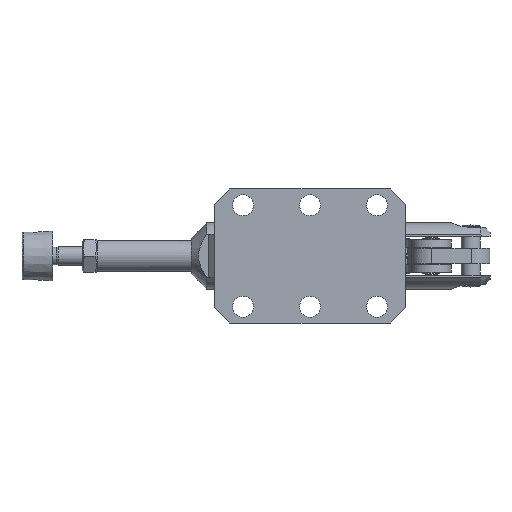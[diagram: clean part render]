
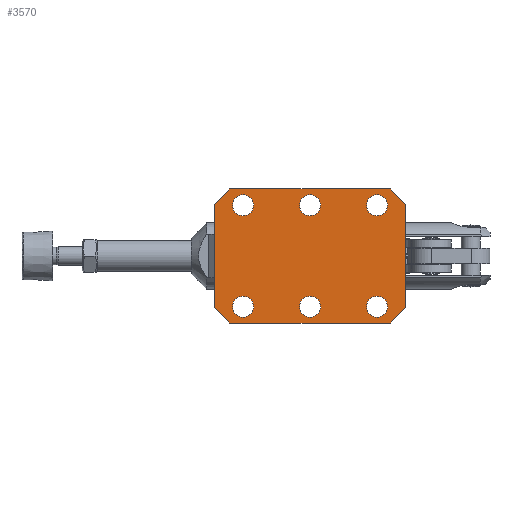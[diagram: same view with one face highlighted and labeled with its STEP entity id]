
A CAD part, front view. The second image highlights one B-rep face of the part: STEP entity #3570.
In plain terms, the highlighted planar face has unit normal (0, -1, 0).
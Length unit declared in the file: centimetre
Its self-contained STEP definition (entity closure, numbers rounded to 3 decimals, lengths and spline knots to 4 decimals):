
#196=FACE_BOUND($,#854,.T.);
#197=FACE_BOUND($,#855,.T.);
#198=FACE_BOUND($,#856,.T.);
#199=FACE_BOUND($,#857,.T.);
#200=FACE_BOUND($,#858,.T.);
#201=FACE_BOUND($,#859,.T.);
#202=FACE_BOUND($,#860,.T.);
#342=CIRCLE($,#3870,0.55);
#344=CIRCLE($,#3873,0.55);
#346=CIRCLE($,#3876,0.55);
#348=CIRCLE($,#3879,0.55);
#350=CIRCLE($,#3882,0.55);
#352=CIRCLE($,#3885,0.55);
#854=EDGE_LOOP($,(#2477));
#855=EDGE_LOOP($,(#2478));
#856=EDGE_LOOP($,(#2479));
#857=EDGE_LOOP($,(#2480));
#858=EDGE_LOOP($,(#2481));
#859=EDGE_LOOP($,(#2482));
#860=EDGE_LOOP($,(#2483,#2484,#2485,#2486,#2487,#2488,#2489,#2490));
#1222=LINE($,#5431,#1413);
#1223=LINE($,#5433,#1414);
#1224=LINE($,#5435,#1415);
#1225=LINE($,#5437,#1416);
#1226=LINE($,#5439,#1417);
#1227=LINE($,#5441,#1418);
#1228=LINE($,#5443,#1419);
#1229=LINE($,#5444,#1420);
#1413=VECTOR($,#4363,1.);
#1414=VECTOR($,#4364,1.);
#1415=VECTOR($,#4365,1.);
#1416=VECTOR($,#4366,1.);
#1417=VECTOR($,#4367,1.);
#1418=VECTOR($,#4368,1.);
#1419=VECTOR($,#4369,1.);
#1420=VECTOR($,#4370,1.);
#1601=VERTEX_POINT($,#5399);
#1603=VERTEX_POINT($,#5404);
#1605=VERTEX_POINT($,#5409);
#1607=VERTEX_POINT($,#5414);
#1609=VERTEX_POINT($,#5419);
#1611=VERTEX_POINT($,#5424);
#1613=VERTEX_POINT($,#5429);
#1614=VERTEX_POINT($,#5430);
#1615=VERTEX_POINT($,#5432);
#1616=VERTEX_POINT($,#5434);
#1617=VERTEX_POINT($,#5436);
#1618=VERTEX_POINT($,#5438);
#1619=VERTEX_POINT($,#5440);
#1620=VERTEX_POINT($,#5442);
#1958=EDGE_CURVE($,#1601,#1601,#342,.T.);
#1960=EDGE_CURVE($,#1603,#1603,#344,.T.);
#1962=EDGE_CURVE($,#1605,#1605,#346,.T.);
#1964=EDGE_CURVE($,#1607,#1607,#348,.T.);
#1966=EDGE_CURVE($,#1609,#1609,#350,.T.);
#1968=EDGE_CURVE($,#1611,#1611,#352,.T.);
#1970=EDGE_CURVE($,#1613,#1614,#1222,.T.);
#1971=EDGE_CURVE($,#1615,#1613,#1223,.T.);
#1972=EDGE_CURVE($,#1616,#1615,#1224,.T.);
#1973=EDGE_CURVE($,#1617,#1616,#1225,.T.);
#1974=EDGE_CURVE($,#1618,#1617,#1226,.T.);
#1975=EDGE_CURVE($,#1619,#1618,#1227,.T.);
#1976=EDGE_CURVE($,#1620,#1619,#1228,.T.);
#1977=EDGE_CURVE($,#1614,#1620,#1229,.T.);
#2477=ORIENTED_EDGE($,*,*,#1958,.T.);
#2478=ORIENTED_EDGE($,*,*,#1960,.T.);
#2479=ORIENTED_EDGE($,*,*,#1962,.T.);
#2480=ORIENTED_EDGE($,*,*,#1964,.T.);
#2481=ORIENTED_EDGE($,*,*,#1966,.T.);
#2482=ORIENTED_EDGE($,*,*,#1968,.T.);
#2483=ORIENTED_EDGE($,*,*,#1970,.F.);
#2484=ORIENTED_EDGE($,*,*,#1971,.F.);
#2485=ORIENTED_EDGE($,*,*,#1972,.F.);
#2486=ORIENTED_EDGE($,*,*,#1973,.F.);
#2487=ORIENTED_EDGE($,*,*,#1974,.F.);
#2488=ORIENTED_EDGE($,*,*,#1975,.F.);
#2489=ORIENTED_EDGE($,*,*,#1976,.F.);
#2490=ORIENTED_EDGE($,*,*,#1977,.F.);
#3448=PLANE($,#3887);
#3570=ADVANCED_FACE($,(#196,#197,#198,#199,#200,#201,#202),#3448,.F.);
#3870=AXIS2_PLACEMENT_3D($,#5400,#4327,#4328);
#3873=AXIS2_PLACEMENT_3D($,#5405,#4333,#4334);
#3876=AXIS2_PLACEMENT_3D($,#5410,#4339,#4340);
#3879=AXIS2_PLACEMENT_3D($,#5415,#4345,#4346);
#3882=AXIS2_PLACEMENT_3D($,#5420,#4351,#4352);
#3885=AXIS2_PLACEMENT_3D($,#5425,#4357,#4358);
#3887=AXIS2_PLACEMENT_3D($,#5428,#4361,#4362);
#4327=DIRECTION('center_axis',(0.,1.,0.));
#4328=DIRECTION('ref_axis',(1.,0.,0.));
#4333=DIRECTION('center_axis',(0.,1.,0.));
#4334=DIRECTION('ref_axis',(1.,0.,0.));
#4339=DIRECTION('center_axis',(0.,1.,0.));
#4340=DIRECTION('ref_axis',(1.,0.,0.));
#4345=DIRECTION('center_axis',(0.,1.,0.));
#4346=DIRECTION('ref_axis',(1.,0.,0.));
#4351=DIRECTION('center_axis',(0.,1.,0.));
#4352=DIRECTION('ref_axis',(1.,0.,0.));
#4357=DIRECTION('center_axis',(0.,1.,0.));
#4358=DIRECTION('ref_axis',(1.,0.,0.));
#4361=DIRECTION('center_axis',(0.,1.,0.));
#4362=DIRECTION('ref_axis',(0.,0.,1.));
#4363=DIRECTION($,(-1.,0.,0.));
#4364=DIRECTION($,(-0.707,0.,-0.707));
#4365=DIRECTION($,(0.,0.,-1.));
#4366=DIRECTION($,(0.707,0.,-0.707));
#4367=DIRECTION($,(1.,0.,0.));
#4368=DIRECTION($,(0.707,0.,0.707));
#4369=DIRECTION($,(0.,0.,1.));
#4370=DIRECTION($,(-0.707,0.,0.707));
#5399=CARTESIAN_POINT('',(7.95,-0.5,2.65));
#5400=CARTESIAN_POINT('Origin',(8.5,-0.5,2.65));
#5404=CARTESIAN_POINT('',(4.45,-0.5,2.65));
#5405=CARTESIAN_POINT('Origin',(5.,-0.5,2.65));
#5409=CARTESIAN_POINT('',(0.95,-0.5,2.65));
#5410=CARTESIAN_POINT('Origin',(1.5,-0.5,2.65));
#5414=CARTESIAN_POINT('',(7.95,-0.5,-2.65));
#5415=CARTESIAN_POINT('Origin',(8.5,-0.5,-2.65));
#5419=CARTESIAN_POINT('',(4.45,-0.5,-2.65));
#5420=CARTESIAN_POINT('Origin',(5.,-0.5,-2.65));
#5424=CARTESIAN_POINT('',(0.95,-0.5,-2.65));
#5425=CARTESIAN_POINT('Origin',(1.5,-0.5,-2.65));
#5428=CARTESIAN_POINT('Origin',(5.,-0.5,0.));
#5429=CARTESIAN_POINT('',(9.2,-0.5,-3.5));
#5430=CARTESIAN_POINT('',(0.8,-0.5,-3.5));
#5431=CARTESIAN_POINT($,(9.2,-0.5,-3.5));
#5432=CARTESIAN_POINT('',(10.,-0.5,-2.7));
#5433=CARTESIAN_POINT($,(10.,-0.5,-2.7));
#5434=CARTESIAN_POINT('',(10.,-0.5,2.7));
#5435=CARTESIAN_POINT($,(10.,-0.5,2.7));
#5436=CARTESIAN_POINT('',(9.2,-0.5,3.5));
#5437=CARTESIAN_POINT($,(9.2,-0.5,3.5));
#5438=CARTESIAN_POINT('',(0.8,-0.5,3.5));
#5439=CARTESIAN_POINT($,(0.8,-0.5,3.5));
#5440=CARTESIAN_POINT('',(0.,-0.5,2.7));
#5441=CARTESIAN_POINT($,(0.,-0.5,2.7));
#5442=CARTESIAN_POINT('',(0.,-0.5,-2.7));
#5443=CARTESIAN_POINT($,(0.,-0.5,-2.7));
#5444=CARTESIAN_POINT($,(0.8,-0.5,-3.5));
